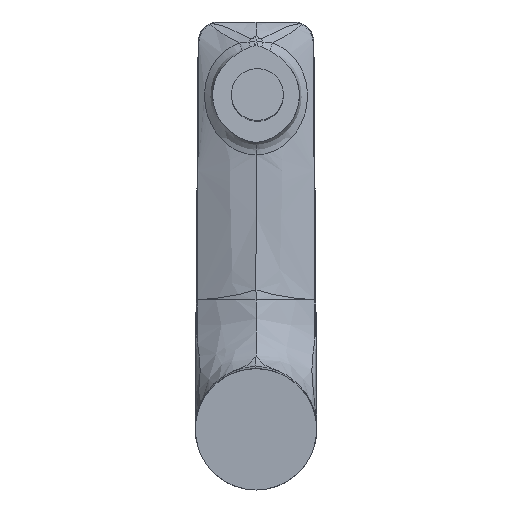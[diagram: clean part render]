
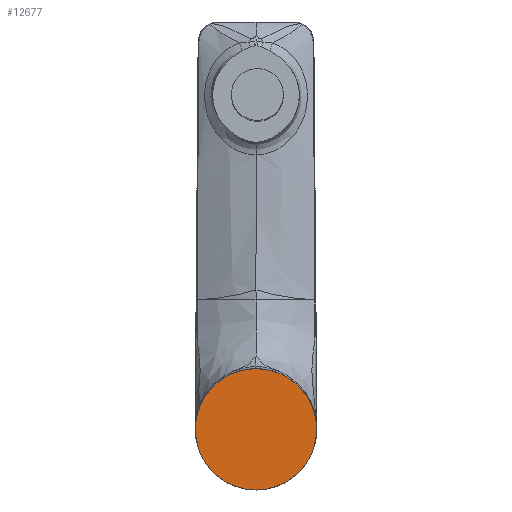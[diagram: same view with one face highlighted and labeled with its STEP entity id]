
A CAD part, front view. The second image highlights one B-rep face of the part: STEP entity #12677.
In plain terms, the highlighted planar face has unit normal (0, -1, 0).
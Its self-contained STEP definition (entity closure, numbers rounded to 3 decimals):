
#1168 = VERTEX_POINT ( 'NONE', #15619 ) ;
#1580 = VERTEX_POINT ( 'NONE', #14243 ) ;
#1882 = DIRECTION ( 'NONE',  ( 0., 1., 0. ) ) ;
#2066 = CARTESIAN_POINT ( 'NONE',  ( 0., 0., 0. ) ) ;
#3745 = EDGE_LOOP ( 'NONE', ( #16040, #17331 ) ) ;
#3972 = DIRECTION ( 'NONE',  ( 0., 0., 1. ) ) ;
#4472 = AXIS2_PLACEMENT_3D ( 'NONE', #14554, #11561, #5696 ) ;
#5343 = PLANE ( 'NONE',  #15262 ) ;
#5464 = DIRECTION ( 'NONE',  ( 0., 1., 0. ) ) ;
#5696 = DIRECTION ( 'NONE',  ( 0., 0., 1. ) ) ;
#8475 = CIRCLE ( 'NONE', #4472, 21. ) ;
#8529 = EDGE_CURVE ( 'NONE', #1168, #1580, #8475, .T. ) ;
#10221 = EDGE_CURVE ( 'NONE', #1580, #1168, #18648, .T. ) ;
#10605 = FACE_OUTER_BOUND ( 'NONE', #3745, .T. ) ;
#11561 = DIRECTION ( 'NONE',  ( 0., 1., 0. ) ) ;
#12677 = ADVANCED_FACE ( 'NONE', ( #10605 ), #5343, .F. ) ;
#14243 = CARTESIAN_POINT ( 'NONE',  ( 0., 0., 21. ) ) ;
#14554 = CARTESIAN_POINT ( 'NONE',  ( 0., 0., 0. ) ) ;
#15262 = AXIS2_PLACEMENT_3D ( 'NONE', #15639, #5464, #3972 ) ;
#15619 = CARTESIAN_POINT ( 'NONE',  ( 0., 0., -21. ) ) ;
#15639 = CARTESIAN_POINT ( 'NONE',  ( 0., 0., 0. ) ) ;
#16040 = ORIENTED_EDGE ( 'NONE', *, *, #10221, .F. ) ;
#16372 = AXIS2_PLACEMENT_3D ( 'NONE', #2066, #1882, #18207 ) ;
#17331 = ORIENTED_EDGE ( 'NONE', *, *, #8529, .F. ) ;
#18207 = DIRECTION ( 'NONE',  ( 0., 0., 1. ) ) ;
#18648 = CIRCLE ( 'NONE', #16372, 21. ) ;
